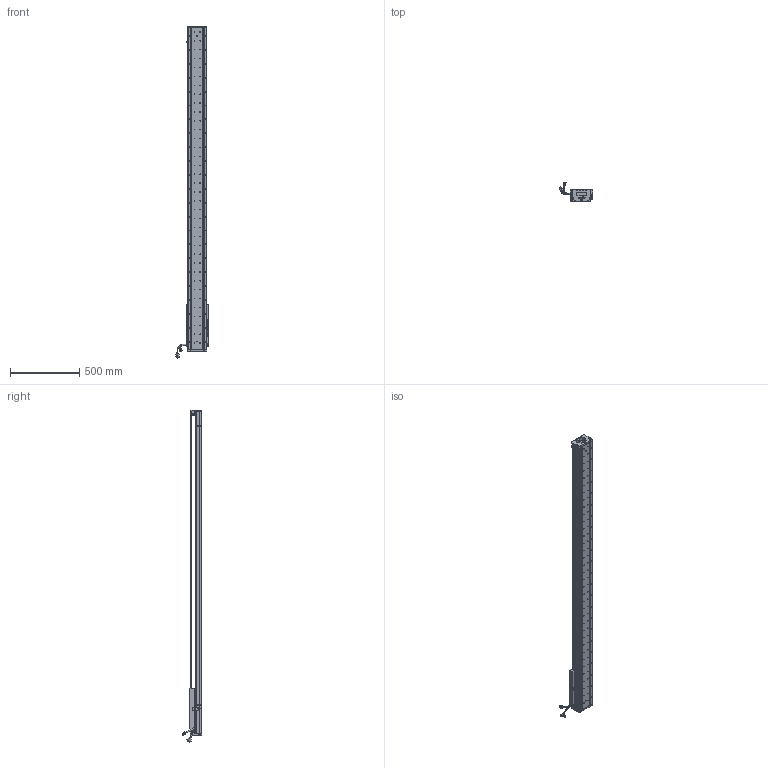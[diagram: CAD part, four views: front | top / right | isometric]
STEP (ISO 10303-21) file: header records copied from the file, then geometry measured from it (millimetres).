
FILE_DESCRIPTION (( 'STEP AP203' ), '1' );
FILE_NAME ('Z4-RY140D-1-L500-B-K.SLDASM_1950.step', '2021-05-17T08:18:04', ( '盈信电脑' ), ( '东莞市道滘镇水果街19号' ), 'SwSTEP 2.0', 'SolidWorks 2016', '' );
FILE_SCHEMA (( 'CONFIG_CONTROL_DESIGN' ));
Length unit declared in the file: millimetre
Products named in the file (36): SCREW-M1.6-3; PBU_SHEET; Z4-RY140-L500直线电机模组底座_1950; LABEL; SCALE-Part-1; 080黍杅芛假蚾釱21遴; Z4-RY140D-1-L500-B-K.SLDASM_1950; PSLH080_PSLF2; 榋妏寠巭燃_暯_M2_2; 140雄赽晤鎢ん堤盄; SCREW-M1.6-2; HOLDER0; SCREW-M1.6-1; SCALE-Part-2; SCREW-M1.7; HARNESS; SHIELDPLATE; COVER-Part-1; SEAL; 詩湍狟揤裔; 140蚥薯蝶輸; LABEL-Part-1; SEAL-Part-1; 詩湍奻揤裔; HARNESS-Part-1; SCALE; 覜茼ん672; 140-Z-臏賑輸盄裔(21遴); Z-140詩湍傷裔啣; SCREW-M1.6; SCREW-M1.7-1; COVER; HARNESS-Part-2; Z-RY140感应器672光电感应片; Z4-RY140圉猾敕臏賑輸(21遴); Z4-RY140-L500詩湍100mm遵_1950
Assembly tree (41 placements, depth 4):
  Z4-RY140D-1-L500-B-K.SLDASM_1950
    Z4-RY140-L500直线电机模组底座_1950
    Z-RY140感应器672光电感应片
    Z4-RY140圉猾敕臏賑輸(21遴)
    覜茼ん672  x3
    Z4-RY140-L500詩湍100mm遵_1950
    PSLH080_PSLF2
      SCALE
        SCALE-Part-1
        SCALE-Part-2
      HARNESS
        HARNESS-Part-1
        HARNESS-Part-2
      LABEL
        LABEL-Part-1
      COVER
        COVER-Part-1
      SEAL
        SEAL-Part-1
      榋妏寠巭燃_暯_M2_2
      SHIELDPLATE
      SCREW-M1.7
      SCREW-M1.7-1
      PBU_SHEET
      SCREW-M1.6
      SCREW-M1.6-1
      SCREW-M1.6-2
      SCREW-M1.6-3
      HOLDER0
    080黍杅芛假蚾釱21遴
    140-Z-臏賑輸盄裔(21遴)
    Z-140詩湍傷裔啣  x2
    詩湍狟揤裔  x2
    詩湍奻揤裔  x2
    140蚥薯蝶輸  x2
    140雄赽晤鎢ん堤盄
Bounding box: 239.84 x 143.88 x 2390.87 mm (x, y, z)
Volume: 7966110.7 mm3; surface area: 2052184.4 mm2
Topology: 36 solids, 36 shells, 3924 faces, 10626 edges, 6729 vertices
Faces by surface type: cylinder 2088, plane 1328, cone 386, torus 69, bspline 53
Entity records: 123174 total; most frequent: CARTESIAN_POINT 34275, ORIENTED_EDGE 18204, DIRECTION 17026, EDGE_CURVE 9102, AXIS2_PLACEMENT_3D 6328, VERTEX_POINT 5897, VECTOR 4370, LINE 4370
